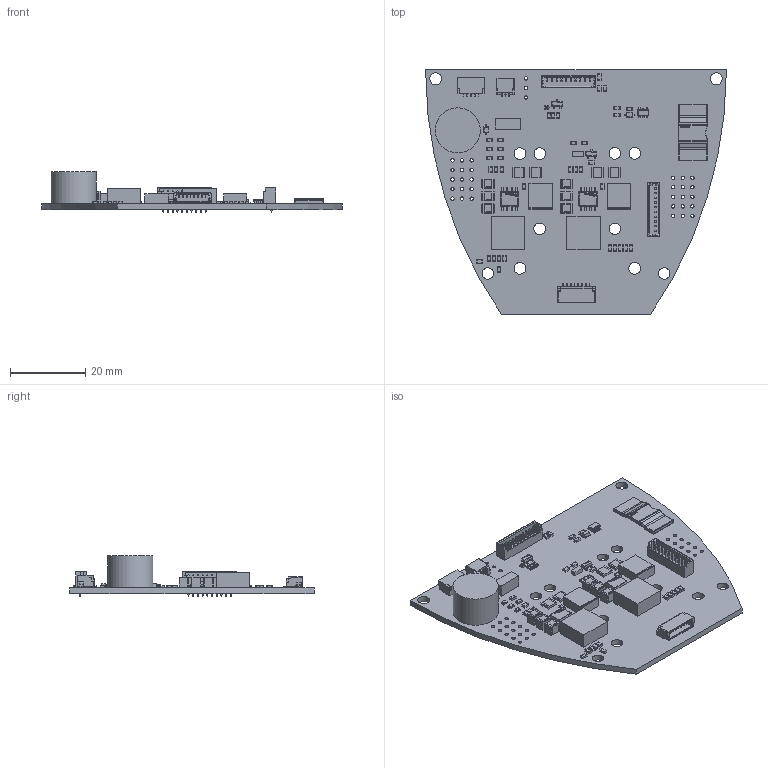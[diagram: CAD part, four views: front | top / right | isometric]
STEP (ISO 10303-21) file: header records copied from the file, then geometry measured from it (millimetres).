
FILE_DESCRIPTION(('Open CASCADE Model'),'2;1');
FILE_NAME('Open CASCADE Shape Model','2025-11-11T16:44:19',('Author'),( 'Open CASCADE'),'Open CASCADE STEP processor 7.5','Open CASCADE 7.5' ,'Unknown');
FILE_SCHEMA(('AUTOMOTIVE_DESIGN { 1 0 10303 214 1 1 1 1 }'));
Length unit declared in the file: millimetre
Products named in the file (140): PCB; Board; Open CASCADE STEP translator 7.5 4.1.1; R27; RES0603; R26; R25; Q4; SOT-723; SOT-723_L1.2-W0.8-P0.40-LS1.2-BR; COMPOUND (2); Q3; Diode_Diodes_Inc_BZX84C18-7-F_eec; body; pins; part number & logo; J2; 530471010_RGB8421504; D4; 5702298816; Open CASCADE STEP translator 6.8 7.1; Body; Open CASCADE STEP translator 6.8 7.2.1; Leader; SW1; 7160621424; Extruded; R24; 7160635984; 7160629904; R21; 7160636144; 7160621664; J7; LS1; 7160633664; Cylinder; R23; R22; R20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
Assembly tree (263 placements, depth 5):
  PCB
    Board
      Open CASCADE STEP translator 7.5 4.1.1
    R27
      RES0603
    R26
      RES0603
    R25
      RES0603
    Q4
      SOT-723
        SOT-723_L1.2-W0.8-P0.40-LS1.2-BR
          COMPOUND (2)
    Q3
      Diode_Diodes_Inc_BZX84C18-7-F_eec
        body
        pins
        part number & logo
    J2
      530471010_RGB8421504
    D4
      5702298816
        Open CASCADE STEP translator 6.8 7.1
        Body
          Open CASCADE STEP translator 6.8 7.2.1
        Leader  x2
    SW1
      7160621424
        Extruded
    R24
      7160635984  x2
        Extruded
      7160629904
        Extruded
    R21
      7160636144  x2
        Extruded
      7160621664
        Extruded
    J7
      530471010_RGB8421504
    LS1
      7160633664
        Cylinder
    R23
      7160621664
        Extruded
      7160636144  x2
        Extruded
    R22
      7160636144  x2
        Extruded
      7160621664
        Extruded
    R20
      7160635984  x2
        Extruded
      7160629904
        Extruded
    R19
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Bounding box: 80 x 65 x 10.79 mm (x, y, z)
Volume: 9308.7 mm3; surface area: 13679.5 mm2
Topology: 343 solids, 344 shells, 5714 faces, 14251 edges, 9271 vertices
Faces by surface type: plane 3913, bspline 1017, cylinder 648, sphere 114, torus 22
Full cylindrical faces by diameter (mm): 0.5 x20, 0.8 x2, 0.9 x35, 3 x2, 3.1 x8, 3.2 x2, 12 x1
Entity records: 102405 total; most frequent: CARTESIAN_POINT 28182, ORIENTED_EDGE 14721, DIRECTION 12308, EDGE_CURVE 7361, LINE 5414, VECTOR 5414, VERTEX_POINT 4775, AXIS2_PLACEMENT_3D 3447
